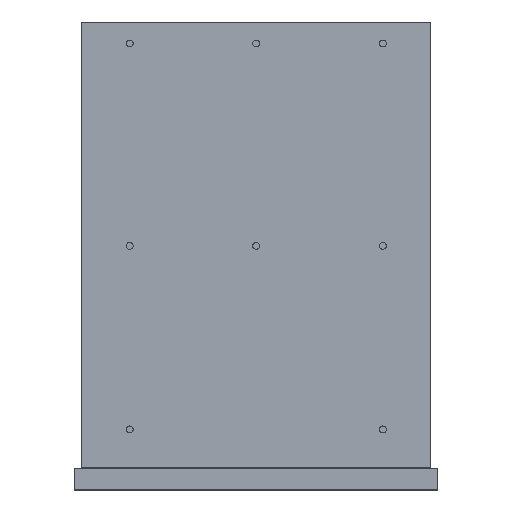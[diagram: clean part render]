
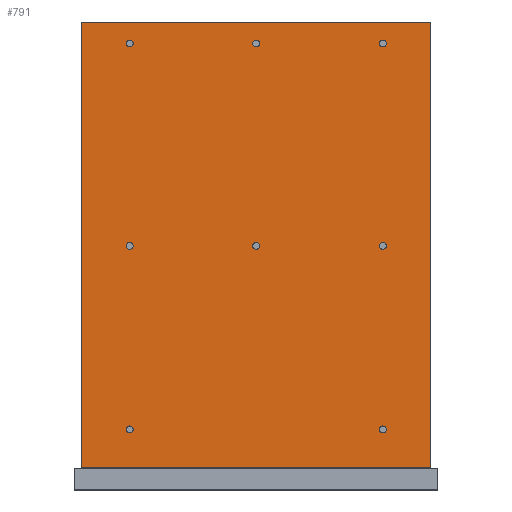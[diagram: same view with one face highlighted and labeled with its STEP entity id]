
A CAD part, top view. The second image highlights one B-rep face of the part: STEP entity #791.
In plain terms, the highlighted planar face has unit normal (0, 0, 1).
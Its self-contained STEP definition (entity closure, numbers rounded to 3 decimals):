
#791 = ADVANCED_FACE( '', ( #1818, #1819, #1820, #1821, #1822, #1823, #1824, #1825, #1826 ), #1827, .F. );
#1818 = FACE_BOUND( '', #3420, .T. );
#1819 = FACE_BOUND( '', #3421, .T. );
#1820 = FACE_BOUND( '', #3422, .T. );
#1821 = FACE_BOUND( '', #3423, .T. );
#1822 = FACE_BOUND( '', #3424, .T. );
#1823 = FACE_BOUND( '', #3425, .T. );
#1824 = FACE_BOUND( '', #3426, .T. );
#1825 = FACE_BOUND( '', #3427, .T. );
#1826 = FACE_OUTER_BOUND( '', #3428, .T. );
#1827 = PLANE( '', #3429 );
#3420 = EDGE_LOOP( '', ( #5086 ) );
#3421 = EDGE_LOOP( '', ( #5087 ) );
#3422 = EDGE_LOOP( '', ( #5088 ) );
#3423 = EDGE_LOOP( '', ( #5089 ) );
#3424 = EDGE_LOOP( '', ( #5090 ) );
#3425 = EDGE_LOOP( '', ( #5091 ) );
#3426 = EDGE_LOOP( '', ( #5092 ) );
#3427 = EDGE_LOOP( '', ( #5093 ) );
#3428 = EDGE_LOOP( '', ( #5094, #5095, #5096, #5097 ) );
#3429 = AXIS2_PLACEMENT_3D( '', #5098, #5099, #5100 );
#5086 = ORIENTED_EDGE( '', *, *, #9094, .F. );
#5087 = ORIENTED_EDGE( '', *, *, #9095, .F. );
#5088 = ORIENTED_EDGE( '', *, *, #9096, .F. );
#5089 = ORIENTED_EDGE( '', *, *, #9097, .F. );
#5090 = ORIENTED_EDGE( '', *, *, #9098, .F. );
#5091 = ORIENTED_EDGE( '', *, *, #9022, .F. );
#5092 = ORIENTED_EDGE( '', *, *, #9099, .F. );
#5093 = ORIENTED_EDGE( '', *, *, #9100, .F. );
#5094 = ORIENTED_EDGE( '', *, *, #9101, .T. );
#5095 = ORIENTED_EDGE( '', *, *, #9102, .T. );
#5096 = ORIENTED_EDGE( '', *, *, #9103, .F. );
#5097 = ORIENTED_EDGE( '', *, *, #9104, .F. );
#5098 = CARTESIAN_POINT( '', ( -38., 322., 0. ) );
#5099 = DIRECTION( '', ( 0., 0., -1. ) );
#5100 = DIRECTION( '', ( -1., 0., 0. ) );
#9022 = EDGE_CURVE( '', #10604, #10604, #10605, .F. );
#9094 = EDGE_CURVE( '', #10733, #10733, #10734, .F. );
#9095 = EDGE_CURVE( '', #10735, #10735, #10736, .F. );
#9096 = EDGE_CURVE( '', #10737, #10737, #10738, .F. );
#9097 = EDGE_CURVE( '', #10739, #10739, #10740, .F. );
#9098 = EDGE_CURVE( '', #10741, #10741, #10742, .F. );
#9099 = EDGE_CURVE( '', #10743, #10743, #10744, .F. );
#9100 = EDGE_CURVE( '', #10745, #10745, #10746, .F. );
#9101 = EDGE_CURVE( '', #10747, #10748, #10749, .T. );
#9102 = EDGE_CURVE( '', #10748, #10750, #10751, .T. );
#9103 = EDGE_CURVE( '', #10752, #10750, #10753, .T. );
#9104 = EDGE_CURVE( '', #10747, #10752, #10754, .T. );
#10604 = VERTEX_POINT( '', #12983 );
#10605 = CIRCLE( '', #12984, 2.75 );
#10733 = VERTEX_POINT( '', #13155 );
#10734 = CIRCLE( '', #13156, 2.75 );
#10735 = VERTEX_POINT( '', #13157 );
#10736 = CIRCLE( '', #13158, 2.75 );
#10737 = VERTEX_POINT( '', #13159 );
#10738 = CIRCLE( '', #13160, 2.75 );
#10739 = VERTEX_POINT( '', #13161 );
#10740 = CIRCLE( '', #13162, 2.75 );
#10741 = VERTEX_POINT( '', #13163 );
#10742 = CIRCLE( '', #13164, 2.75 );
#10743 = VERTEX_POINT( '', #13165 );
#10744 = CIRCLE( '', #13166, 2.75 );
#10745 = VERTEX_POINT( '', #13167 );
#10746 = CIRCLE( '', #13168, 2.75 );
#10747 = VERTEX_POINT( '', #13169 );
#10748 = VERTEX_POINT( '', #13170 );
#10749 = LINE( '', #13171, #13172 );
#10750 = VERTEX_POINT( '', #13173 );
#10751 = LINE( '', #13174, #13175 );
#10752 = VERTEX_POINT( '', #13176 );
#10753 = LINE( '', #13177, #13178 );
#10754 = LINE( '', #13179, #13180 );
#12983 = CARTESIAN_POINT( '', ( 197.25, 145., 0. ) );
#12984 = AXIS2_PLACEMENT_3D( '', #16229, #16230, #16231 );
#13155 = CARTESIAN_POINT( '', ( 197.25, 0., 0. ) );
#13156 = AXIS2_PLACEMENT_3D( '', #16320, #16321, #16322 );
#13157 = CARTESIAN_POINT( '', ( 197.25, 305., 0. ) );
#13158 = AXIS2_PLACEMENT_3D( '', #16323, #16324, #16325 );
#13159 = CARTESIAN_POINT( '', ( 97.25, 305., 0. ) );
#13160 = AXIS2_PLACEMENT_3D( '', #16326, #16327, #16328 );
#13161 = CARTESIAN_POINT( '', ( -2.75, 145., 0. ) );
#13162 = AXIS2_PLACEMENT_3D( '', #16329, #16330, #16331 );
#13163 = CARTESIAN_POINT( '', ( 97.25, 145., 0. ) );
#13164 = AXIS2_PLACEMENT_3D( '', #16332, #16333, #16334 );
#13165 = CARTESIAN_POINT( '', ( -2.75, 305., 0. ) );
#13166 = AXIS2_PLACEMENT_3D( '', #16335, #16336, #16337 );
#13167 = CARTESIAN_POINT( '', ( -2.75, 0., 0. ) );
#13168 = AXIS2_PLACEMENT_3D( '', #16338, #16339, #16340 );
#13169 = CARTESIAN_POINT( '', ( -38., 322., 0. ) );
#13170 = CARTESIAN_POINT( '', ( -38., -30., 0. ) );
#13171 = CARTESIAN_POINT( '', ( -38., 322., 0. ) );
#13172 = VECTOR( '', #16341, 1000. );
#13173 = CARTESIAN_POINT( '', ( 238., -30., 0. ) );
#13174 = CARTESIAN_POINT( '', ( -38., -30., 0. ) );
#13175 = VECTOR( '', #16342, 1000. );
#13176 = CARTESIAN_POINT( '', ( 238., 322., 0. ) );
#13177 = CARTESIAN_POINT( '', ( 238., 322., 0. ) );
#13178 = VECTOR( '', #16343, 1000. );
#13179 = CARTESIAN_POINT( '', ( -38., 322., 0. ) );
#13180 = VECTOR( '', #16344, 1000. );
#16229 = CARTESIAN_POINT( '', ( 200., 145., 0. ) );
#16230 = DIRECTION( '', ( 0., 0., -1. ) );
#16231 = DIRECTION( '', ( -1., 0., 0. ) );
#16320 = CARTESIAN_POINT( '', ( 200., 0., 0. ) );
#16321 = DIRECTION( '', ( 0., 0., -1. ) );
#16322 = DIRECTION( '', ( -1., 0., 0. ) );
#16323 = CARTESIAN_POINT( '', ( 200., 305., 0. ) );
#16324 = DIRECTION( '', ( 0., 0., -1. ) );
#16325 = DIRECTION( '', ( -1., 0., 0. ) );
#16326 = CARTESIAN_POINT( '', ( 100., 305., 0. ) );
#16327 = DIRECTION( '', ( 0., 0., -1. ) );
#16328 = DIRECTION( '', ( -1., 0., 0. ) );
#16329 = CARTESIAN_POINT( '', ( 0., 145., 0. ) );
#16330 = DIRECTION( '', ( 0., 0., -1. ) );
#16331 = DIRECTION( '', ( -1., 0., 0. ) );
#16332 = CARTESIAN_POINT( '', ( 100., 145., 0. ) );
#16333 = DIRECTION( '', ( 0., 0., -1. ) );
#16334 = DIRECTION( '', ( -1., 0., 0. ) );
#16335 = CARTESIAN_POINT( '', ( 0., 305., 0. ) );
#16336 = DIRECTION( '', ( 0., 0., -1. ) );
#16337 = DIRECTION( '', ( -1., 0., 0. ) );
#16338 = CARTESIAN_POINT( '', ( 0., 0., 0. ) );
#16339 = DIRECTION( '', ( 0., 0., -1. ) );
#16340 = DIRECTION( '', ( -1., 0., 0. ) );
#16341 = DIRECTION( '', ( 0., -1., 0. ) );
#16342 = DIRECTION( '', ( 1., 0., 0. ) );
#16343 = DIRECTION( '', ( 0., -1., 0. ) );
#16344 = DIRECTION( '', ( 1., 0., 0. ) );
